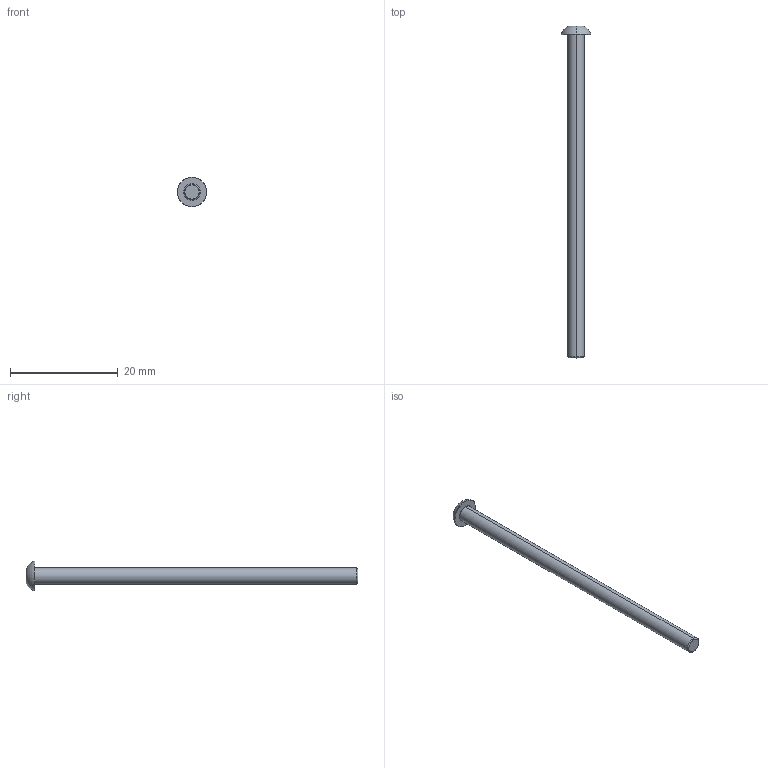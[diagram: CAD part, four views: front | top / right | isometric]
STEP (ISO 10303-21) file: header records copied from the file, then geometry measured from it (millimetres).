
FILE_DESCRIPTION (( 'STEP AP203' ), '1' );
FILE_NAME ('LGDD-304-M3x60.STEP', '2026-08-08T02:43:25', ( '' ), ( '' ), 'SwSTEP 2.0', 'SolidWorks 2020', '' );
FILE_SCHEMA (( 'CONFIG_CONTROL_DESIGN' ));
Length unit declared in the file: millimetre
Products named in the file (1): LGDD-304-M3x60
Bounding box: 5.5 x 61.6 x 5.5 mm (x, y, z)
Volume: 445.5 mm3; surface area: 632.6 mm2
Topology: 1 solids, 1 shells, 31 faces, 59 edges, 32 vertices
Faces by surface type: plane 10, cone 9, torus 8, cylinder 4
Entity records: 876 total; most frequent: CARTESIAN_POINT 166, DIRECTION 149, ORIENTED_EDGE 118, AXIS2_PLACEMENT_3D 65, EDGE_CURVE 59, EDGE_LOOP 33, CIRCLE 33, VERTEX_POINT 32
